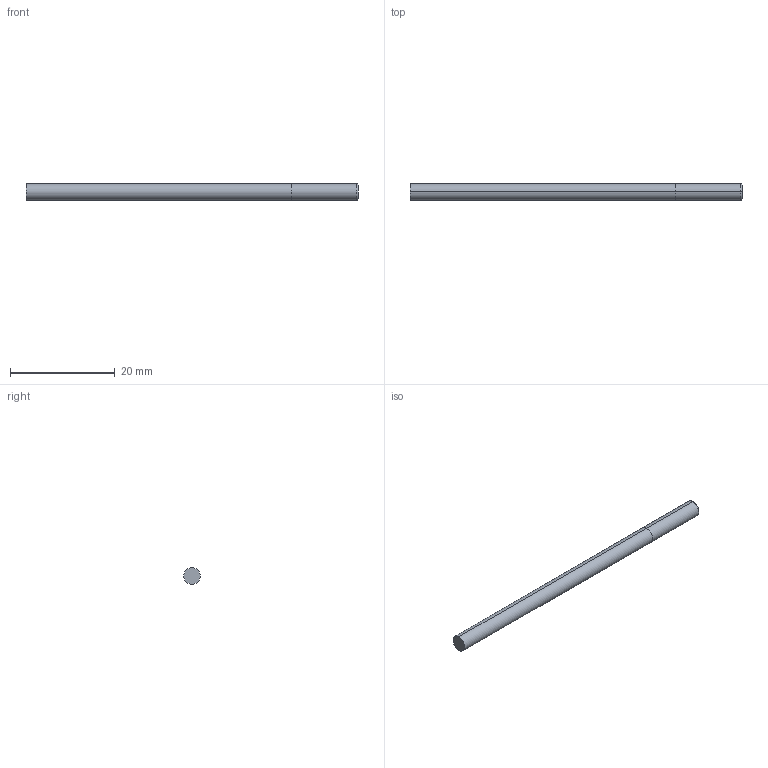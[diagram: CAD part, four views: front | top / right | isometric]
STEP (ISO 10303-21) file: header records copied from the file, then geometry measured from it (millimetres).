
FILE_DESCRIPTION (( 'STEP AP214' ), '1' );
FILE_NAME ('SSI50125-010.STEP', '2025-05-23T14:31:39', ( '' ), ( '' ), 'SwSTEP 2.0', 'SolidWorks 2023', '' );
FILE_SCHEMA (( 'AUTOMOTIVE_DESIGN' ));
Length unit declared in the file: inch
Products named in the file (3): SSI50125-010; SSI5 Imperial LOC ONLY_SSI50125-010; SSI5 Imperial SHANK ONLY_SSI50125-010
Assembly tree (2 placements, depth 2):
  SSI50125-010
    SSI5 Imperial LOC ONLY_SSI50125-010
    SSI5 Imperial SHANK ONLY_SSI50125-010
Bounding box: 63.5 x 3.17 x 3.17 mm (x, y, z)
Volume: 502.6 mm3; surface area: 663.9 mm2
Topology: 2 solids, 2 shells, 10 faces, 16 edges, 10 vertices
Faces by surface type: cylinder 4, plane 4, torus 2
Entity records: 412 total; most frequent: DIRECTION 58, CARTESIAN_POINT 41, ORIENTED_EDGE 32, AXIS2_PLACEMENT_3D 27, EDGE_CURVE 16, CIRCLE 12, LENGTH_MEASURE_WITH_UNIT 11, DIMENSIONAL_EXPONENTS 11
